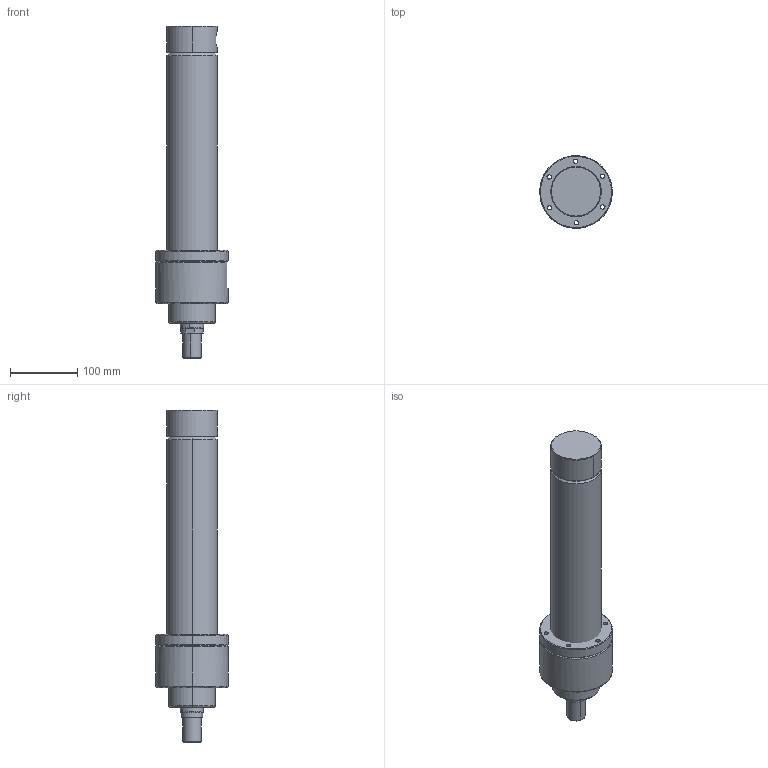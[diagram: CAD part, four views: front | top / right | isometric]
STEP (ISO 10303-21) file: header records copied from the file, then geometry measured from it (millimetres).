
FILE_DESCRIPTION (( 'STEP AP214' ), '1' );
FILE_NAME ('63-35-250-WEB.STEP', '2021-01-13T12:20:31', ( 'cagdas' ), ( '' ), 'SwSTEP 2.0', 'SolidWorks 2021', '' );
FILE_SCHEMA (( 'AUTOMOTIVE_DESIGN' ));
Length unit declared in the file: millimetre
Products named in the file (6): TYAK_63_75; 63x75_BORU_WEB; 63_36_CETOP_烰_KAPAK; 63-35-250-WEB; 35_K_MIL_WEB; 63_Gerdirme _Flansý
Assembly tree (5 placements, depth 2):
  63-35-250-WEB
    63x75_BORU_WEB
    TYAK_63_75
    63_36_CETOP_烰_KAPAK
    63_Gerdirme _Flansý
    35_K_MIL_WEB
Bounding box: 107.99 x 107.99 x 494 mm (x, y, z)
Volume: 1408827.8 mm3; surface area: 277504.8 mm2
Topology: 5 solids, 5 shells, 377 faces, 925 edges, 590 vertices
Faces by surface type: plane 120, cylinder 102, bspline 87, cone 64, torus 4
Entity records: 17240 total; most frequent: CARTESIAN_POINT 8406, ORIENTED_EDGE 1850, DIRECTION 1528, EDGE_CURVE 925, VERTEX_POINT 590, AXIS2_PLACEMENT_3D 575, EDGE_LOOP 443, VECTOR 378
